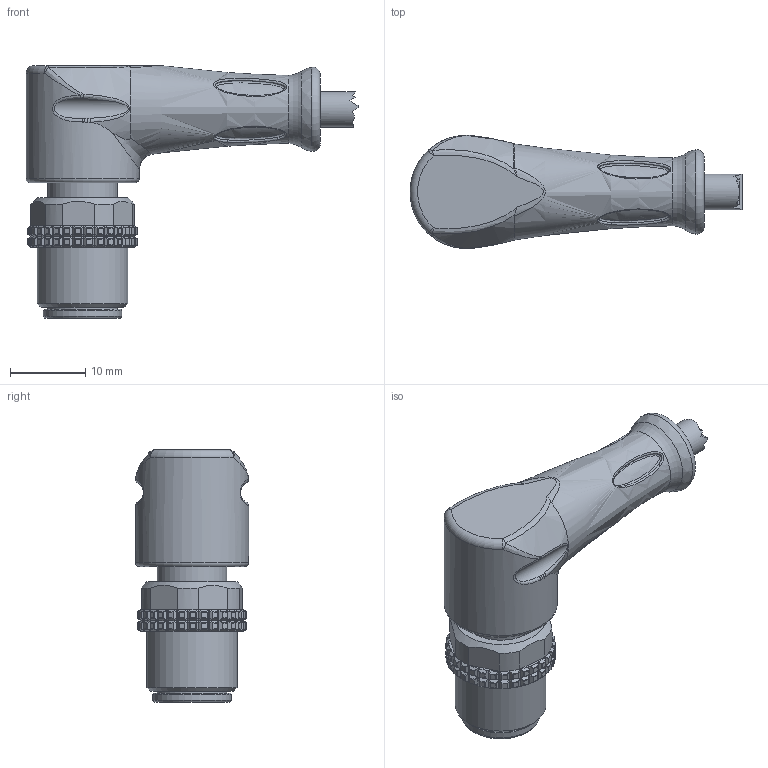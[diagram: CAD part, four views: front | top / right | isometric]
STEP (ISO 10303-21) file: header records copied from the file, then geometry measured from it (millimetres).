
FILE_DESCRIPTION((''),'2;1');
FILE_NAME('C:\Users\enrico\Desktop\Ale\Sito\AUTOMAZIONE_2020\FOTO & STEP Connettori circolari per sensori e attuatori\Singola testa\Step\M12 Ma ang.stp','2020-06-29T09:56:07',('Tecnico2'),(''),'Autodesk Inventor 2012','Autodesk Inventor 2012','');
FILE_SCHEMA(('AUTOMOTIVE_DESIGN { 1 0 10303 214 1 1 1 1 }'));
Length unit declared in the file: millimetre
Products named in the file (3): C12M3B2; ghiera M12_MA_NON TECNICO
Assembly tree (2 placements, depth 2):
  C12M3B2
    C12M3B2
    ghiera M12_MA_NON TECNICO
Bounding box: 44 x 15 x 33.5 mm (x, y, z)
Volume: 5699.9 mm3; surface area: 4161.3 mm2
Topology: 2 solids, 2 shells, 1233 faces, 2840 edges, 1616 vertices
Faces by surface type: cylinder 521, plane 404, sphere 242, bspline 52, torus 10, cone 4
Full cylindrical faces by diameter (mm): 4.7 x1, 8.6 x1, 9.2 x1, 10 x1, 10.4 x1, 12 x1, 15 x1
Entity records: 38149 total; most frequent: CARTESIAN_POINT 9945, DIRECTION 6388, ORIENTED_EDGE 5630, EDGE_CURVE 2815, AXIS2_PLACEMENT_3D 2497, VERTEX_POINT 1611, VECTOR 1394, LINE 1394
